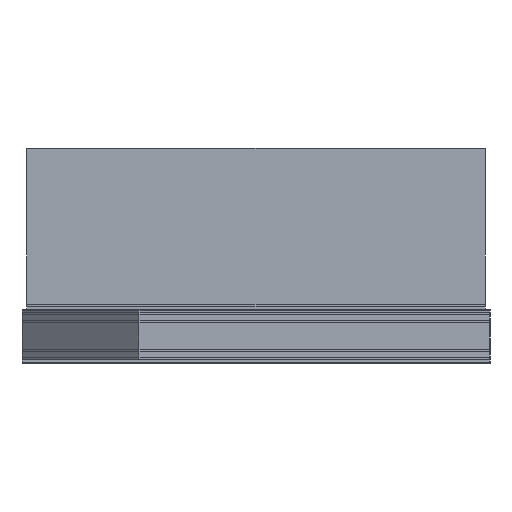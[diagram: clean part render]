
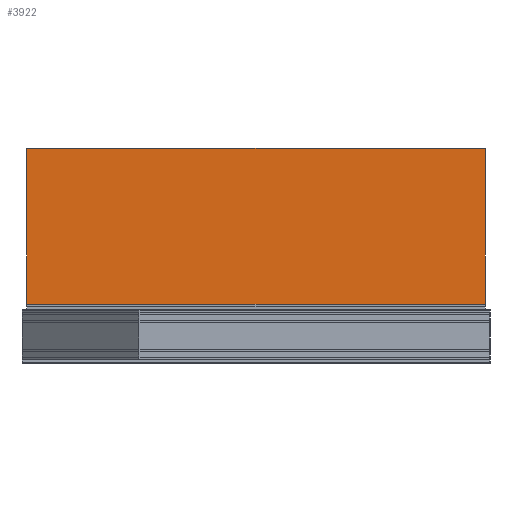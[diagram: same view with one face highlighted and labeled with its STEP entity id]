
A CAD part, left-side view. The second image highlights one B-rep face of the part: STEP entity #3922.
In plain terms, the highlighted planar face has unit normal (-1, 0, 0).
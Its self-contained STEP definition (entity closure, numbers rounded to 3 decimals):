
#504=FACE_OUTER_BOUND('',#739,.T.);
#739=EDGE_LOOP('',(#3352,#3353,#3354,#3355));
#1154=LINE('',#6553,#1591);
#1155=LINE('',#6556,#1592);
#1156=LINE('',#6558,#1593);
#1157=LINE('',#6559,#1594);
#1591=VECTOR('',#5428,10.);
#1592=VECTOR('',#5431,10.);
#1593=VECTOR('',#5432,10.);
#1594=VECTOR('',#5433,10.);
#1961=VERTEX_POINT('',#6549);
#1962=VERTEX_POINT('',#6551);
#1963=VERTEX_POINT('',#6555);
#1964=VERTEX_POINT('',#6557);
#2462=EDGE_CURVE('',#1961,#1962,#1154,.T.);
#2463=EDGE_CURVE('',#1963,#1961,#1155,.T.);
#2464=EDGE_CURVE('',#1964,#1962,#1156,.T.);
#2465=EDGE_CURVE('',#1963,#1964,#1157,.T.);
#3352=ORIENTED_EDGE('',*,*,#2463,.T.);
#3353=ORIENTED_EDGE('',*,*,#2462,.T.);
#3354=ORIENTED_EDGE('',*,*,#2464,.F.);
#3355=ORIENTED_EDGE('',*,*,#2465,.F.);
#3717=PLANE('',#4435);
#3922=ADVANCED_FACE('',(#504),#3717,.T.);
#4435=AXIS2_PLACEMENT_3D('',#6554,#5429,#5430);
#5428=DIRECTION('',(0.,0.,1.));
#5429=DIRECTION('center_axis',(-1.,0.,0.));
#5430=DIRECTION('ref_axis',(0.,-1.,0.));
#5431=DIRECTION('',(0.,-1.,0.));
#5432=DIRECTION('',(0.,-1.,0.));
#5433=DIRECTION('',(0.,0.,1.));
#6549=CARTESIAN_POINT('',(0.,0.,0.));
#6551=CARTESIAN_POINT('',(0.,0.,3.));
#6553=CARTESIAN_POINT('',(0.,0.,0.));
#6554=CARTESIAN_POINT('Origin',(0.,8.82,0.));
#6555=CARTESIAN_POINT('',(0.,8.82,0.));
#6556=CARTESIAN_POINT('',(0.,8.82,0.));
#6557=CARTESIAN_POINT('',(0.,8.82,3.));
#6558=CARTESIAN_POINT('',(0.,8.82,3.));
#6559=CARTESIAN_POINT('',(0.,8.82,0.));
